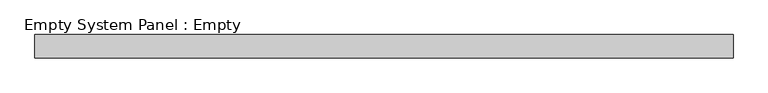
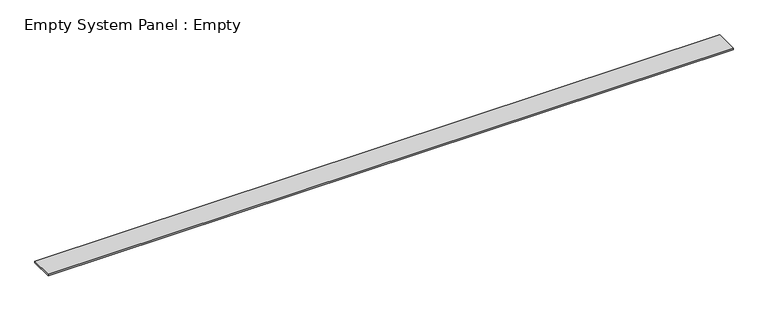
"""IFC4 building model written with IfcOpenShell, lengths in millimetres: plate geometry, Empty System Panel : Empty."""

from ifc_helpers import new_model, si_unit, origin, origin_with_axes, place, context, project, spatial, polyline, outline, extrude, source, transform, mapped, element, save


def empty_system_panel_empty_1428de86(model_context):
    return source(origin(), model_context, "Body", "SweptSolid", [
        extrude(outline(polyline([(1500.0, 50.0), (-1500.0, 50.0), (-1500.0, 150.0), (1500.0, 150.0), (1500.0, 50.0)])), origin_with_axes(), (0.0, 0.0, 1.0), 7.0329135),
    ])


if __name__ == "__main__":
    model = new_model("IFC4")
    model_context = context("Model", 3, world=origin())
    ifc_project = project(units=[si_unit("LENGTHUNIT", "METRE", prefix="MILLI")], contexts=[model_context])
    site = spatial("IfcSite", under=ifc_project)
    building = spatial("IfcBuilding", under=site)
    placement = place(None, origin())
    empty_system_panel_empty_shape = empty_system_panel_empty_1428de86(model_context)
    element("IfcPlate", 1, ObjectType="Empty System Panel : Empty", at=placement, inside=building, context=model_context, shape_type="MappedRepresentation", body=[
        mapped(empty_system_panel_empty_shape, transform((0.0, 0.0, 0.0), x_axis=(1.0, 0.0, 0.0), y_axis=(0.0, 1.0, 0.0), z_axis=(0.0, 0.0, 1.0))),
    ])
    save(model, "model.ifc")
